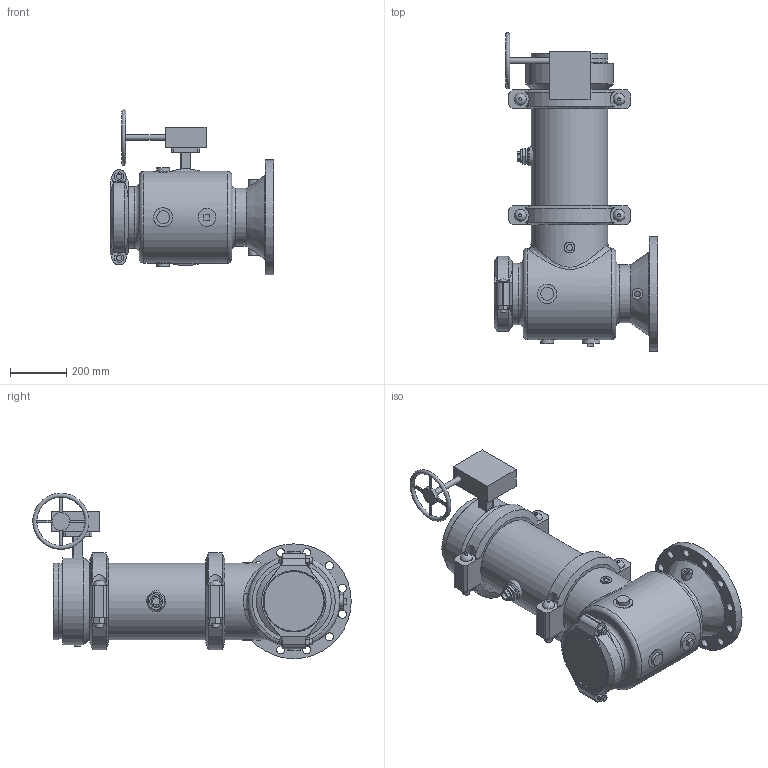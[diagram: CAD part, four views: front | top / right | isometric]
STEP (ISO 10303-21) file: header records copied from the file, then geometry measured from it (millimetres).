
FILE_DESCRIPTION(/* description */ ('VIC SVI PUMP DROP HORZ S/391 (OGSxFLG)','CAx-IF Rec.Pracs.---Representation and Presentation of Product Manufacturing Information (PMI)---4.0---2014-10-13'),/* implementation_level */ '2;1');
FILE_NAME(/* name */ 'C:\Users\Vjadhav\AppData\Roaming\Autodesk\ApplicationPlugins\Victaulic.Temp\A952\Victaulic_IPS_SVI_CL 150_Series 391 (OGSxFLG)_10.0x10.0 (250x250).stp',/* time_stamp */ '2021-04-09T17:55:02+05:00',/* author */ ('kkamble'),/* organization */ ('Victaulic'),/* preprocessor_version */ 'ST-DEVELOPER v17.2',/* originating_system */ 'Autodesk Inventor 2019',/* authorisation */ '');
FILE_SCHEMA (('AP242_MANAGED_MODEL_BASED_3D_ENGINEERING_MIM_LF { 1 0 10303 442 1 1 4 }'));
Length unit declared in the file: inch
Products named in the file (9): 391-10.0x10.0; 731D-10.0x10.0; 731D-10.0x10.0_1; 731D-10.0; 07-08.0; PIPE-10.0; 761-10.0; 077-10.0; 923-10.0x0.75
Assembly tree (9 placements, depth 3):
  391-10.0x10.0
    731D-10.0x10.0
      731D-10.0x10.0_1
      731D-10.0
      07-08.0
    PIPE-10.0
    761-10.0
    077-10.0  x2
    923-10.0x0.75
Bounding box: 584.2 x 1136.63 x 590.53 mm (x, y, z)
Volume: 33561359 mm3; surface area: 3459733.9 mm2
Topology: 8 solids, 15 shells, 451 faces, 1133 edges, 777 vertices
Faces by surface type: plane 249, cylinder 163, cone 19, torus 10, bspline 8, sphere 2
Full cylindrical faces by diameter (mm): 10.922 x4, 12.7 x1, 19.05 x4, 20.066 x1, 21.336 x5, 22.86 x1, 25.4 x8, 26.67 x1, 27.432 x4, 29.007 x12, 32.537 x2, 38.1 x4, 45.72 x3, 45.974 x2, 55.626 x1, 63.079 x1, 63.5 x1, 70.104 x1, 76.2 x1, 177.8 x1, 179.578 x1, 193.802 x1, 206.375 x1, 206.502 x1, 214.401 x2, 219.075 x5, 246.888 x1, 254 x1, 254.508 x2, 264.16 x2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
Entity records: 14215 total; most frequent: CARTESIAN_POINT 3623, DIRECTION 2150, ORIENTED_EDGE 1976, EDGE_CURVE 988, AXIS2_PLACEMENT_3D 842, VERTEX_POINT 679, EDGE_LOOP 507, LINE 466
